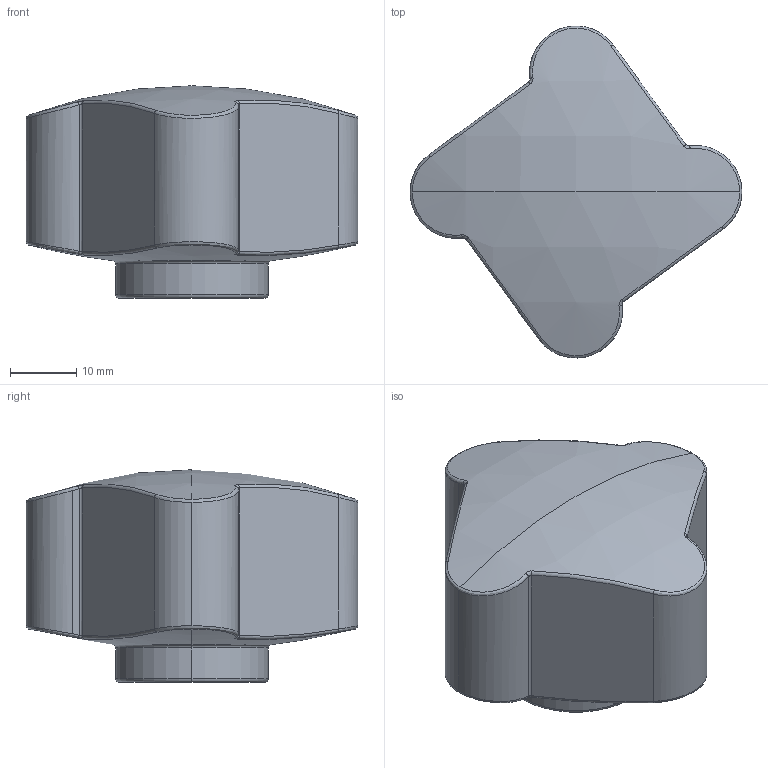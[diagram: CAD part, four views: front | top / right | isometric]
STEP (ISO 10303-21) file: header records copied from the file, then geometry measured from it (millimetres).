
FILE_DESCRIPTION (( 'STEP AP214' ), '1' );
FILE_NAME ('1120 50 301.STEP', '2010-11-26T15:32:03', ( 'Marc' ), ( '' ), 'SwSTEP 2.0', 'SolidWorks 2010', '' );
FILE_SCHEMA (( 'AUTOMOTIVE_DESIGN' ));
Length unit declared in the file: millimetre
Products named in the file (1): 1120 50 301
Bounding box: 50 x 50 x 32 mm (x, y, z)
Volume: 35132.1 mm3; surface area: 9172.1 mm2
Topology: 2 solids, 2 shells, 63 faces, 141 edges, 82 vertices
Faces by surface type: cylinder 19, bspline 16, torus 12, plane 8, sphere 4, cone 4
Entity records: 5307 total; most frequent: CARTESIAN_POINT 3844, ORIENTED_EDGE 278, DIRECTION 263, EDGE_CURVE 139, AXIS2_PLACEMENT_3D 118, VERTEX_POINT 82, CIRCLE 70, EDGE_LOOP 65
